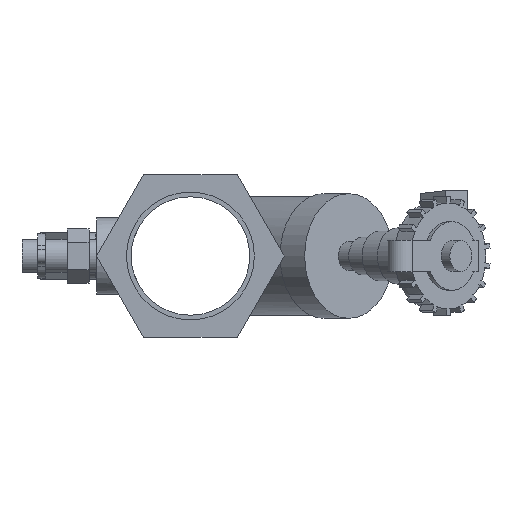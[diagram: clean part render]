
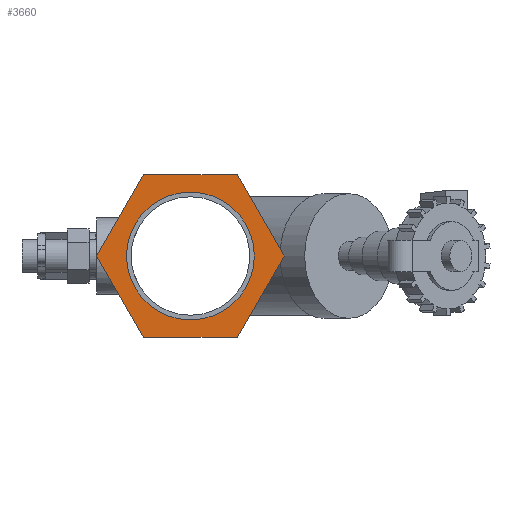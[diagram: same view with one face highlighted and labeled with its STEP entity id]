
A CAD part, left-side view. The second image highlights one B-rep face of the part: STEP entity #3660.
In plain terms, the highlighted planar face has unit normal (-1, 0, 0).
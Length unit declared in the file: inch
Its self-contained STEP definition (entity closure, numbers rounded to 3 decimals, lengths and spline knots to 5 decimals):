
#89=FACE_BOUND('',#614,.T.);
#219=PLANE('',#4024);
#401=FACE_OUTER_BOUND('',#613,.T.);
#613=EDGE_LOOP('',(#3260,#3261,#3262,#3263,#3264,#3265));
#614=EDGE_LOOP('',(#3266));
#936=LINE('',#6419,#1263);
#940=LINE('',#6427,#1267);
#943=LINE('',#6433,#1270);
#946=LINE('',#6439,#1273);
#949=LINE('',#6445,#1276);
#951=LINE('',#6448,#1278);
#1263=VECTOR('',#5009,0.3937);
#1267=VECTOR('',#5015,0.3937);
#1270=VECTOR('',#5020,0.3937);
#1273=VECTOR('',#5025,0.3937);
#1276=VECTOR('',#5030,0.3937);
#1278=VECTOR('',#5034,0.3937);
#1442=CIRCLE('',#4017,1.024);
#1774=VERTEX_POINT('',#6411);
#1776=VERTEX_POINT('',#6416);
#1777=VERTEX_POINT('',#6418);
#1779=VERTEX_POINT('',#6424);
#1781=VERTEX_POINT('',#6430);
#1783=VERTEX_POINT('',#6436);
#1785=VERTEX_POINT('',#6442);
#2271=EDGE_CURVE('',#1774,#1774,#1442,.T.);
#2273=EDGE_CURVE('',#1777,#1776,#936,.T.);
#2277=EDGE_CURVE('',#1776,#1779,#940,.T.);
#2280=EDGE_CURVE('',#1779,#1781,#943,.T.);
#2283=EDGE_CURVE('',#1781,#1783,#946,.T.);
#2286=EDGE_CURVE('',#1783,#1785,#949,.T.);
#2288=EDGE_CURVE('',#1785,#1777,#951,.T.);
#3260=ORIENTED_EDGE('',*,*,#2273,.T.);
#3261=ORIENTED_EDGE('',*,*,#2277,.T.);
#3262=ORIENTED_EDGE('',*,*,#2280,.T.);
#3263=ORIENTED_EDGE('',*,*,#2283,.T.);
#3264=ORIENTED_EDGE('',*,*,#2286,.T.);
#3265=ORIENTED_EDGE('',*,*,#2288,.T.);
#3266=ORIENTED_EDGE('',*,*,#2271,.F.);
#3660=ADVANCED_FACE('',(#401,#89),#219,.T.);
#4017=AXIS2_PLACEMENT_3D('',#6413,#5004,#5005);
#4024=AXIS2_PLACEMENT_3D('',#6450,#5036,#5037);
#5004=DIRECTION('center_axis',(-1.,0.,0.));
#5005=DIRECTION('ref_axis',(0.,1.,0.));
#5009=DIRECTION('',(0.,1.,0.));
#5015=DIRECTION('',(0.,0.5,-0.866));
#5020=DIRECTION('',(0.,-0.5,-0.866));
#5025=DIRECTION('',(0.,-1.,0.));
#5030=DIRECTION('',(0.,-0.5,0.866));
#5034=DIRECTION('',(0.,0.5,0.866));
#5036=DIRECTION('center_axis',(-1.,0.,0.));
#5037=DIRECTION('ref_axis',(0.,0.,1.));
#6411=CARTESIAN_POINT('',(-3.91,-1.024,0.));
#6413=CARTESIAN_POINT('Origin',(-3.91,0.,0.));
#6416=CARTESIAN_POINT('',(-3.91,0.75056,1.3));
#6418=CARTESIAN_POINT('',(-3.91,-0.75056,1.3));
#6419=CARTESIAN_POINT('',(-3.91,0.75056,1.3));
#6424=CARTESIAN_POINT('',(-3.91,1.50111,0.));
#6427=CARTESIAN_POINT('',(-3.91,1.50111,0.));
#6430=CARTESIAN_POINT('',(-3.91,0.75056,-1.3));
#6433=CARTESIAN_POINT('',(-3.91,0.75056,-1.3));
#6436=CARTESIAN_POINT('',(-3.91,-0.75056,-1.3));
#6439=CARTESIAN_POINT('',(-3.91,-0.75056,-1.3));
#6442=CARTESIAN_POINT('',(-3.91,-1.50111,0.));
#6445=CARTESIAN_POINT('',(-3.91,-1.50111,0.));
#6448=CARTESIAN_POINT('',(-3.91,-0.75056,1.3));
#6450=CARTESIAN_POINT('Origin',(-3.91,0.,0.));
